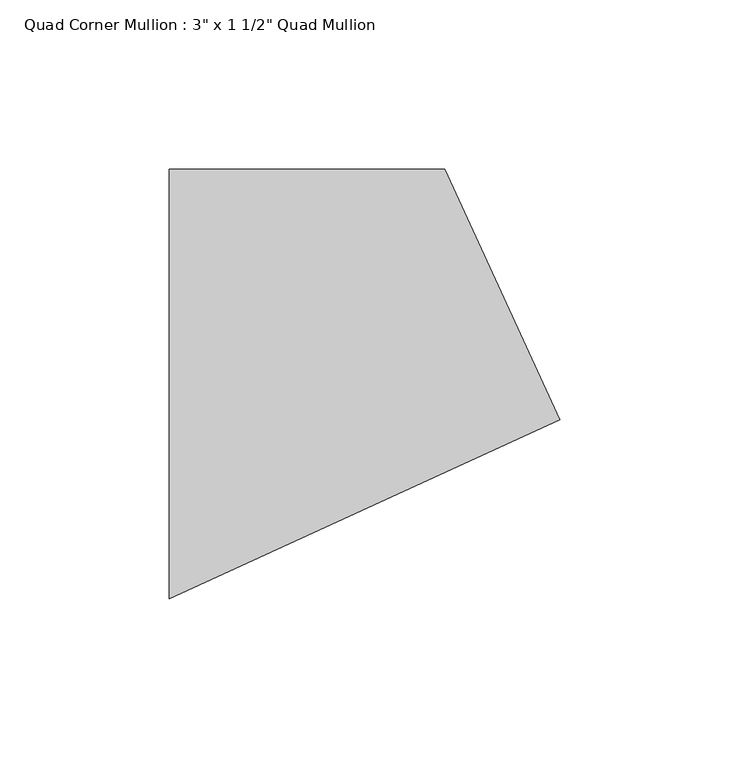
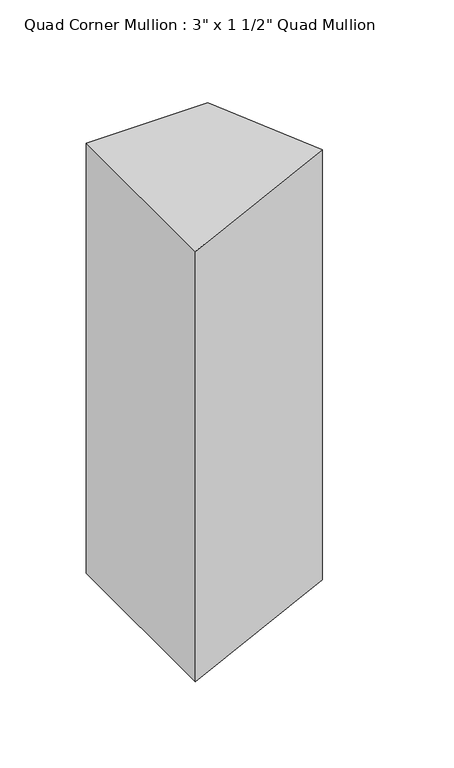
"""IFC4 building model written with IfcOpenShell, lengths in millimetres: member geometry."""

from ifc_helpers import new_model, si_unit, frame, origin, place, context, project, spatial, polyline, outline, extrude, source, transform, mapped, element, save


def member_95fb7d25(model_context):
    return source(origin(), model_context, "Body", "SweptSolid", [
        extrude(outline(polyline([(74.7078921, -10.6493518), (-40.7728811, -63.5), (-40.7728811, 63.5), (40.7728811, 63.5), (74.7078921, -10.6493518)])), frame((0.0, 0.0, -304.8), z_axis=(0.0, 0.0, 1.0), x_axis=(1.0, 0.0, 0.0)), (0.0, 0.0, 1.0), 304.8),
    ])


if __name__ == "__main__":
    model = new_model("IFC4")
    model_context = context("Model", 3, world=origin())
    ifc_project = project(units=[si_unit("LENGTHUNIT", "METRE", prefix="MILLI")], contexts=[model_context])
    site = spatial("IfcSite", under=ifc_project)
    building = spatial("IfcBuilding", under=site)
    placement = place(None, origin())
    member_shape = member_95fb7d25(model_context)
    element("IfcMember", 1, ObjectType="Quad Corner Mullion : 3\" x 1 1/2\" Quad Mullion", at=placement, inside=building, context=model_context, shape_type="MappedRepresentation", body=[
        mapped(member_shape, transform((0.0, 0.0, 0.0), x_axis=(1.0, 0.0, 0.0), y_axis=(0.0, 1.0, 0.0), z_axis=(0.0, 0.0, 1.0))),
    ])
    save(model, "model.ifc")
